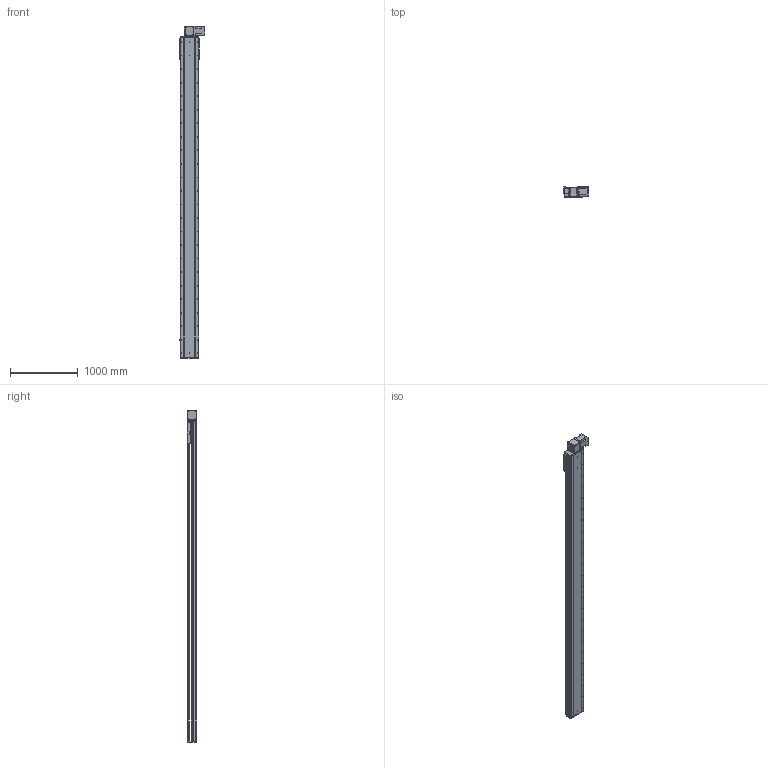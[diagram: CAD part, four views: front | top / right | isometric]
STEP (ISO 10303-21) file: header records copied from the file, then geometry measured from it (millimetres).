
FILE_DESCRIPTION (( 'STEP AP214' ), '1' );
FILE_NAME ('RTB28S-XX-4300-BL-M100-XX-C4.STEP', '2025-12-22T02:45:17', ( '' ), ( '' ), 'SwSTEP 2.0', 'SolidWorks 2018', '' );
FILE_SCHEMA (( 'AUTOMOTIVE_DESIGN' ));
Length unit declared in the file: millimetre
Products named in the file (4): RTB28S-XX-4300-BL-M100-XX-C4; RTB28S-GY-008^RTB28S-XX-XX-BL-M100-XX-C4; RTB28S-GY-004^RTB28S-XX-XX-BL-M100-XX-C4; RTB28S-GY-011^RTB28S-XX-XX-BL-M100-XX-C4
Assembly tree (3 placements, depth 2):
  RTB28S-XX-4300-BL-M100-XX-C4
    RTB28S-GY-011^RTB28S-XX-XX-BL-M100-XX-C4
    RTB28S-GY-004^RTB28S-XX-XX-BL-M100-XX-C4
    RTB28S-GY-008^RTB28S-XX-XX-BL-M100-XX-C4
Bounding box: 380.7 x 145 x 4907 mm (x, y, z)
Volume: 81589166 mm3; surface area: 7549599.8 mm2
Topology: 3 solids, 4 shells, 948 faces, 2568 edges, 1648 vertices
Faces by surface type: cylinder 487, plane 377, cone 80, torus 4
Entity records: 37289 total; most frequent: CARTESIAN_POINT 7402, DIRECTION 5478, ORIENTED_EDGE 5072, EDGE_CURVE 2536, AXIS2_PLACEMENT_3D 2044, VERTEX_POINT 1648, LINE 1390, VECTOR 1390
